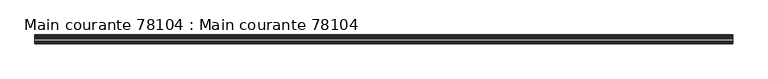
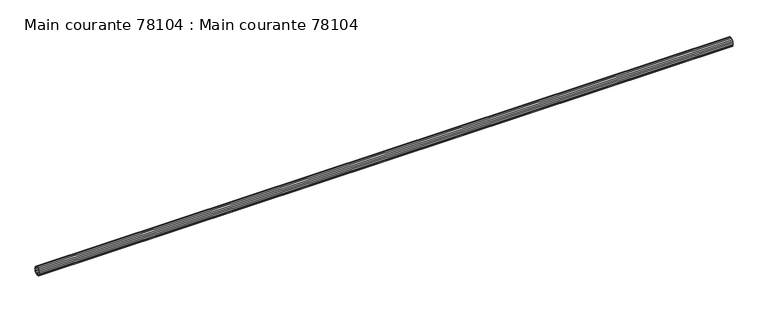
"""IFC4 building model written with IfcOpenShell, lengths in millimetres: beam geometry, Main courante 78104 : Main courante 78104."""

from ifc_helpers import new_model, si_unit, frame, origin, place, context, project, spatial, polyline, outline, extrude, source, transform, mapped, element, save


def main_courante_78104_main_courante_78104_3e1761f4(model_context):
    return source(origin(), model_context, "Body", "SweptSolid", [
        extrude(outline(polyline([(-24931.85, 9264.15), (-24924.3872396, 9262.9680149), (-24917.6549862, 9259.5377604), (-24912.3122396, 9254.1950138), (-24908.8819851, 9247.4627604), (-24907.7, 9240.0), (-24908.8819851, 9232.5372396), (-24912.3122396, 9225.8049862), (-24917.6549862, 9220.4622396), (-24924.3872396, 9217.0319851), (-24931.85, 9215.85), (-24939.3127604, 9217.0319851), (-24946.0450138, 9220.4622396), (-24951.3877604, 9225.8049862), (-24954.8180149, 9232.5372396), (-24956.0, 9240.0), (-24954.8180149, 9247.4627604), (-24951.3877604, 9254.1950138), (-24946.0450138, 9259.5377604), (-24939.3127604, 9262.9680149), (-24931.85, 9264.15)]), holes=[polyline([(-24911.2596264, 9246.6902179), (-24914.3347821, 9252.7255507), (-24919.1244493, 9257.5152179), (-24925.1597821, 9260.5903736), (-24931.85, 9261.65), (-24938.5402179, 9260.5903736), (-24944.5755507, 9257.5152179), (-24949.3652179, 9252.7255507), (-24952.4403736, 9246.6902179), (-24953.5, 9240.0), (-24952.4403736, 9233.3097821), (-24949.3652179, 9227.2744493), (-24944.5755507, 9222.4847821), (-24938.5402179, 9219.4096264), (-24931.85, 9218.35), (-24925.1597821, 9219.4096264), (-24919.1244493, 9222.4847821), (-24914.3347821, 9227.2744493), (-24911.2596264, 9233.3097821), (-24910.2, 9240.0), (-24911.2596264, 9246.6902179)])]), frame((7634.9999999, 0.0, 0.0), z_axis=(1.0, 0.0, 0.0), x_axis=(0.0, 1.0, 0.0)), (0.0, 0.0, 1.0), 3832.2815708),
    ])


if __name__ == "__main__":
    model = new_model("IFC4")
    model_context = context("Model", 3, world=origin())
    ifc_project = project(units=[si_unit("LENGTHUNIT", "METRE", prefix="MILLI")], contexts=[model_context])
    site = spatial("IfcSite", under=ifc_project)
    building = spatial("IfcBuilding", under=site)
    placement = place(None, origin())
    main_courante_78104_main_courante_78104_shape = main_courante_78104_main_courante_78104_3e1761f4(model_context)
    element("IfcBeam", 1, ObjectType="Main courante 78104 : Main courante 78104", at=placement, inside=building, context=model_context, shape_type="MappedRepresentation", body=[
        mapped(main_courante_78104_main_courante_78104_shape, transform((0.0, 0.0, 0.0), x_axis=(1.0, 0.0, 0.0), y_axis=(0.0, 1.0, 0.0), z_axis=(0.0, 0.0, 1.0))),
    ])
    save(model, "model.ifc")
